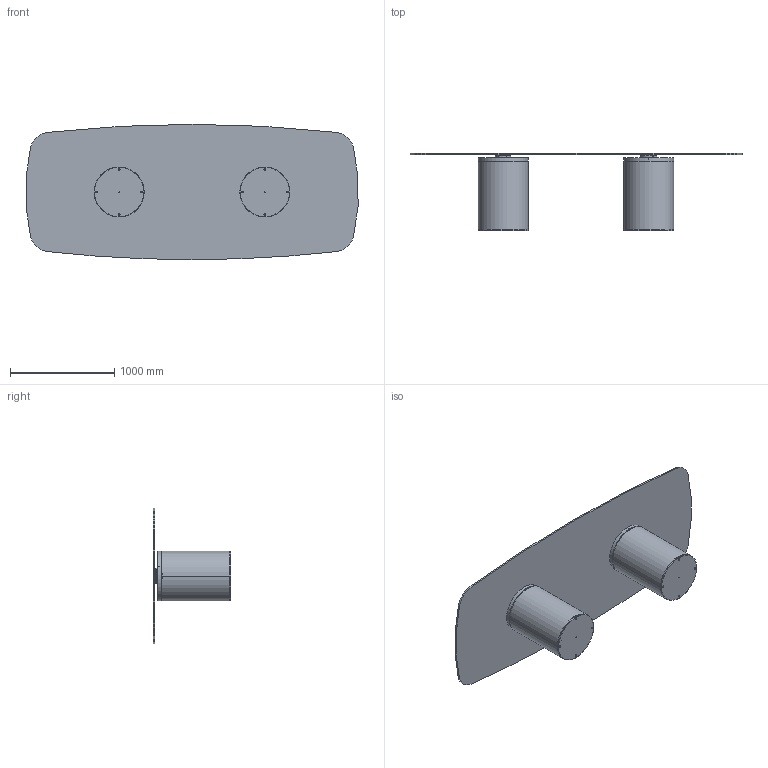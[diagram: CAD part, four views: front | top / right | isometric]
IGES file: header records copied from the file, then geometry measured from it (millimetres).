
Start section: SolidWorks IGES file using analytic representation for surfaces
Global section: file name: Y:\eforma\TECNICO\SOLIDWORKS\E-FORMA\1-TAVOLI\CILINDRO\02 parts\CI46G.IGS; native system: SolidWorks 2022; preprocessor: SolidWorks 2022; author: eforma.tech; date: 240808.085057; units: millimetre
Bounding box: 3189.57 x 747 x 1300 mm (x, y, z)
Volume: 80776802.6 mm3; surface area: 14383436.7 mm2
Topology: 37 solids, 37 shells, 957 faces, 2255 edges, 1344 vertices
Faces by surface type: revolution 609, plane 330, bspline 18
